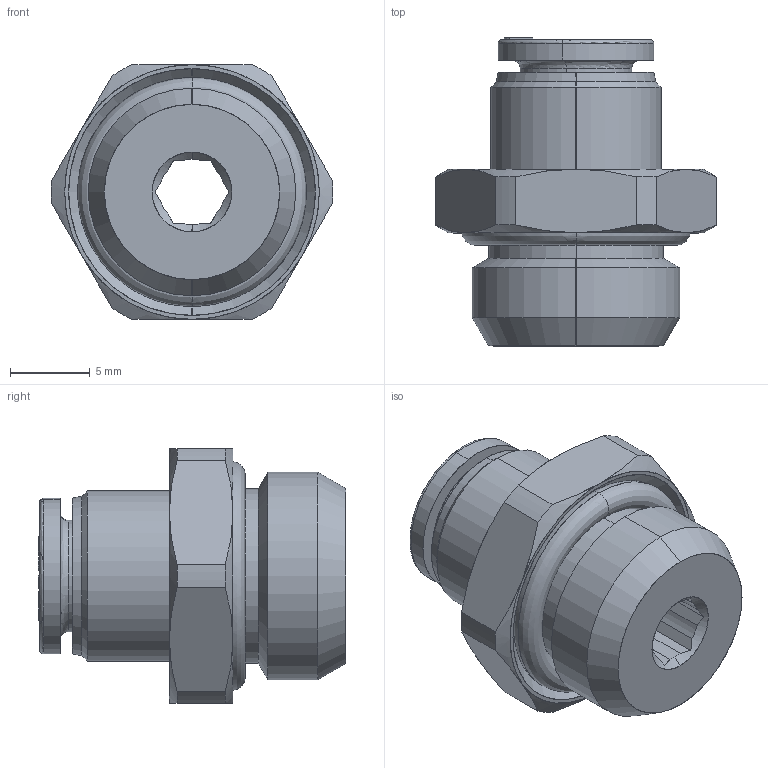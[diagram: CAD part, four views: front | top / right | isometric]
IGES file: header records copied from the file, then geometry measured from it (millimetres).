
Start section: SolidWorks IGES file using analytic representation for surfaces
Global section: file name: C:\Users\cad06\Desktop\Nuova cartella\56020\5602000012.IGS; native system: SolidWorks 2016; preprocessor: SolidWorks 2016; author: cad06; date: 160524.085300; units: millimetre
Bounding box: 17.69 x 19.35 x 16 mm (x, y, z)
Surface area: 1733.7 mm2 (no closed solid volume)
Topology: 0 solids, 0 shells, 242 faces, 2181 edges, 2181 vertices
Faces by surface type: bspline 189, revolution 53
